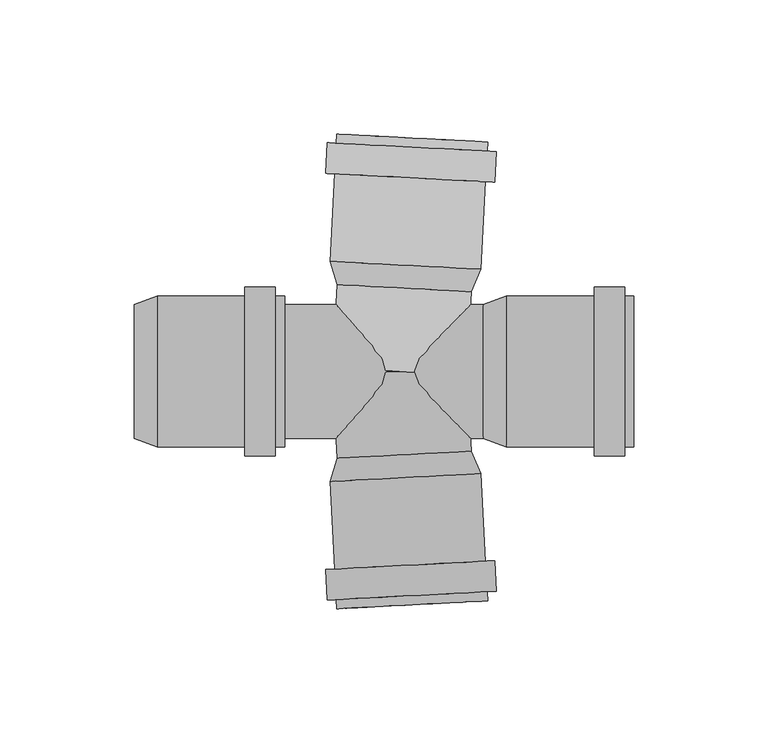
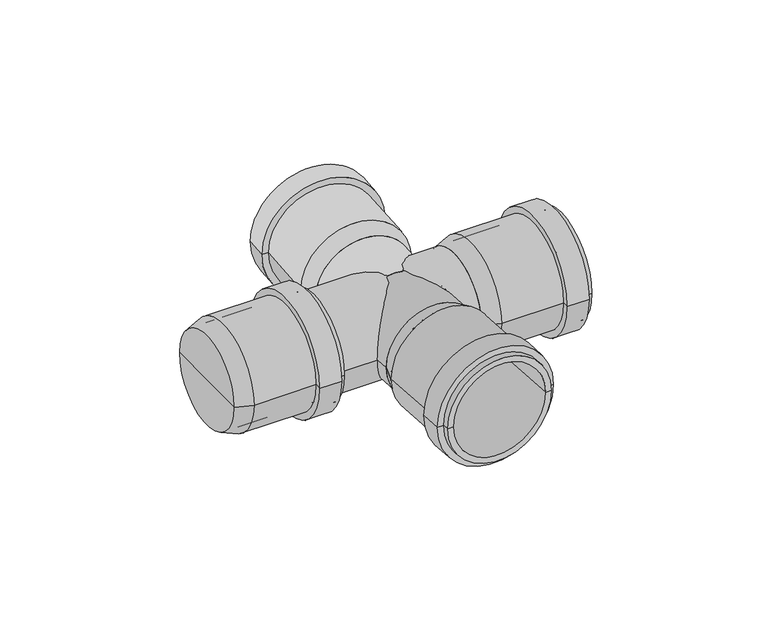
"""IFC4 building model written with IfcOpenShell, lengths in millimetres: pipe fitting geometry, pf_HTDA : pf_HTDA."""

import ifcopenshell
import ifcopenshell.guid

model = None  # the IFC model being written
_history = None  # IfcOwnerHistory: only IFC2X3 demands one
_inside = {}  # id of a spatial element -> (the spatial element, [elements in it])
_under = {}  # id of a project, library or spatial element -> (it, [spatial elements below it])
_declared = {}  # id of a project -> (the project, [libraries it declares])
_typed = {}  # id of a type object -> (the type object, [elements of that type])
_made_of = {}  # id of a material, layer set ... -> (it, [elements and type objects made of it])


def new_model(schema):
    """Start an empty IFC model of exactly this schema.

    Asked for "IFC4X3", IfcOpenShell would pick the latest addendum, in which some entities
    have other attributes; the version numbers below select the first issue.
    IFC2X3 requires an IfcOwnerHistory on every rooted entity: one is made here for all.
    """
    global model, _history
    if schema == "IFC4X3":
        model = ifcopenshell.file(schema_version=(4, 3, 0, 0))
    else:
        model = ifcopenshell.file(schema=schema)
    _inside.clear()
    _under.clear()
    _declared.clear()
    _typed.clear()
    _made_of.clear()
    _history = None
    if model.schema == "IFC2X3":
        org = make("IfcOrganization", Name="unknown")
        user = make(
            "IfcPersonAndOrganization",
            ThePerson=make("IfcPerson", FamilyName="unknown"),
            TheOrganization=org,
        )
        app = make(
            "IfcApplication",
            ApplicationDeveloper=org,
            Version="unknown",
            ApplicationFullName="unknown",
            ApplicationIdentifier="unknown",
        )
        _history = make(
            "IfcOwnerHistory",
            OwningUser=user,
            OwningApplication=app,
            ChangeAction="ADDED",
            CreationDate=0,
        )
    return model


def make(cls, **values):
    """One entity of the class cls with the attributes given. An attribute that is None is left unset."""
    return model.create_entity(
        cls, **{name: value for name, value in values.items() if value is not None}
    )


def rooted(cls, **values):
    """An entity with a GlobalId (a new one), such as an element, a storey or a relation."""
    return make(cls, GlobalId=ifcopenshell.guid.new(), OwnerHistory=_history, **values)


def si_unit(unit_type, name, prefix=None):
    """IfcSIUnit, for example si_unit("LENGTHUNIT", "METRE", prefix="MILLI")."""
    return make("IfcSIUnit", UnitType=unit_type, Prefix=prefix, Name=name)


def assignment(units):
    """IfcUnitAssignment: the units of a project."""
    return None if units is None else make("IfcUnitAssignment", Units=units)


def point(xyz):
    """IfcCartesianPoint."""
    return None if xyz is None else make("IfcCartesianPoint", Coordinates=xyz)


def direction(xyz):
    """IfcDirection."""
    return None if xyz is None else make("IfcDirection", DirectionRatios=xyz)


def frame(location, z_axis=None, x_axis=None):
    """IfcAxis2Placement3D, a coordinate frame: its origin and axes. An axis left out is left unset."""
    return make(
        "IfcAxis2Placement3D",
        Location=point(location),
        Axis=direction(z_axis),
        RefDirection=direction(x_axis),
    )


def frame_2d(location, x_axis=None):
    """IfcAxis2Placement2D, a coordinate frame in the plane: its origin and x axis."""
    return make(
        "IfcAxis2Placement2D", Location=point(location), RefDirection=direction(x_axis)
    )


def origin():
    """The frame at (0, 0, 0) with its axes left unset."""
    return frame((0.0, 0.0, 0.0))


def origin_2d():
    """The frame at (0, 0) in the plane with its x axis left unset."""
    return frame_2d((0.0, 0.0))


def place(relative_to, where):
    """IfcLocalPlacement: puts the frame where relative to a parent placement (None: the world)."""
    return make(
        "IfcLocalPlacement", PlacementRelTo=relative_to, RelativePlacement=where
    )


def context(
    kind, dimensions, precision=None, world=None, true_north=None, identifier=None
):
    """IfcGeometricRepresentationContext, for example the 3D "Model" context."""
    return make(
        "IfcGeometricRepresentationContext",
        ContextIdentifier=identifier,
        ContextType=kind,
        CoordinateSpaceDimension=dimensions,
        Precision=precision,
        WorldCoordinateSystem=world,
        TrueNorth=true_north,
    )


def project(units=None, contexts=None):
    """IfcProject with its units and contexts."""
    return rooted(
        "IfcProject",
        Name="project",
        RepresentationContexts=contexts,
        UnitsInContext=assignment(units),
    )


def spatial(cls, under=None, at=None, **own):
    """A site, building, storey or space (cls), placed at a placement, below another one or the project."""
    s = rooted(cls, ObjectPlacement=at, **own)
    if under is not None:
        _under.setdefault(under.id(), (under, []))[1].append(s)
    return s


def polyline(points):
    """IfcPolyline through the points."""
    return make("IfcPolyline", Points=[point(p) for p in points])


def circle_curve(where, radius):
    """IfcCircle in the frame where."""
    return make("IfcCircle", Position=where, Radius=radius)


def trimmed(basis, trim1, trim2, sense, master):
    """IfcTrimmedCurve: the piece of a basis curve between two trims."""
    return make(
        "IfcTrimmedCurve",
        BasisCurve=basis,
        Trim1=trim1,
        Trim2=trim2,
        SenseAgreement=sense,
        MasterRepresentation=master,
    )


def segment(curve, same_sense, transition):
    """IfcCompositeCurveSegment."""
    return make(
        "IfcCompositeCurveSegment",
        Transition=transition,
        SameSense=same_sense,
        ParentCurve=curve,
    )


def composite_curve(segments, self_intersect=None):
    """IfcCompositeCurve: segments joined end to end."""
    return make("IfcCompositeCurve", Segments=segments, SelfIntersect=self_intersect)


def outline(outer, holes=None, kind="AREA"):
    """IfcArbitraryClosedProfileDef: a profile drawn as a closed curve; with holes, ...WithVoids."""
    if holes is None:
        return make("IfcArbitraryClosedProfileDef", ProfileType=kind, OuterCurve=outer)
    return make(
        "IfcArbitraryProfileDefWithVoids",
        ProfileType=kind,
        OuterCurve=outer,
        InnerCurves=holes,
    )


def extrude(swept, where, along, depth):
    """IfcExtrudedAreaSolid: the profile swept, set in the frame where, extruded along a direction by depth."""
    return make(
        "IfcExtrudedAreaSolid",
        SweptArea=swept,
        Position=where,
        ExtrudedDirection=direction(along),
        Depth=depth,
    )


def shape(context_of_items, identifier, shape_type, items):
    """IfcShapeRepresentation: the items that make up one representation, for example the "Body"."""
    return make(
        "IfcShapeRepresentation",
        ContextOfItems=context_of_items,
        RepresentationIdentifier=identifier,
        RepresentationType=shape_type,
        Items=items,
    )


def source(mapping_origin, context_of_items, identifier, shape_type, items):
    """IfcRepresentationMap: a shape defined once, which mapped items show again and again."""
    return make(
        "IfcRepresentationMap",
        MappingOrigin=mapping_origin,
        MappedRepresentation=shape(context_of_items, identifier, shape_type, items),
    )


def transform(
    local_origin,
    x_axis=None,
    y_axis=None,
    z_axis=None,
    scale=None,
    scale2=None,
    scale3=None,
    uniform=True,
):
    """IfcCartesianTransformationOperator3D, or its non-uniform kind. x_axis, y_axis, z_axis: its Axis1, 2, 3."""
    if uniform:
        return make(
            "IfcCartesianTransformationOperator3D",
            Axis1=direction(x_axis),
            Axis2=direction(y_axis),
            LocalOrigin=point(local_origin),
            Scale=scale,
            Axis3=direction(z_axis),
        )
    return make(
        "IfcCartesianTransformationOperator3DnonUniform",
        Axis1=direction(x_axis),
        Axis2=direction(y_axis),
        LocalOrigin=point(local_origin),
        Scale=scale,
        Axis3=direction(z_axis),
        Scale2=scale2,
        Scale3=scale3,
    )


def mapped(mapping_source, mapping_target):
    """IfcMappedItem: shows the shape of a source again, moved by a transform."""
    return make(
        "IfcMappedItem", MappingSource=mapping_source, MappingTarget=mapping_target
    )


def made_of(thing, what):
    """Note that an element or type object is made of a material, layer set ...; save() writes the relation."""
    if what is not None:
        _made_of.setdefault(what.id(), (what, []))[1].append(thing)
    return thing


def element(
    cls,
    number,
    at=None,
    inside=None,
    cuts=None,
    type_object=None,
    material=None,
    context=None,
    identifier="Body",
    shape_type=None,
    held_by="IfcProductDefinitionShape",
    body=None,
    shapes=None,
    **own,
):
    """One element of the class cls, such as IfcWall. Its Tag is "e" and its number.

    at: its placement. inside: the storey or other place that contains it. cuts: it is an
    opening in that element (IfcRelVoidsElement). A single representation is given by context,
    identifier, shape_type and body (its items); several are given by shapes. held_by: the class
    of the entity that holds the representations. save() writes the other relations.
    """
    e = rooted(cls, Tag="e%d" % number, ObjectPlacement=at, **own)
    if body is not None:
        shapes = [shape(context, identifier, shape_type, body)]
    if shapes is not None:
        e.Representation = make(held_by, Representations=shapes)
    if inside is not None:
        _inside.setdefault(inside.id(), (inside, []))[1].append(e)
    if cuts is not None:
        rooted(
            "IfcRelVoidsElement", RelatingBuildingElement=cuts, RelatedOpeningElement=e
        )
    if type_object is not None:
        _typed.setdefault(type_object.id(), (type_object, []))[1].append(e)
    return made_of(e, material)


def aggregate(whole, parts):
    """IfcRelAggregates: a whole, such as a stair, and the parts it consists of."""
    return rooted("IfcRelAggregates", RelatingObject=whole, RelatedObjects=parts)


def save(model, path):
    """Write the relations noted so far, then the file.

    IfcRelAggregates (storeys below a building ...), IfcRelContainedInSpatialStructure (elements
    in a storey), IfcRelDefinesByType, IfcRelAssociatesMaterial and IfcRelDeclares: one each for
    every whole, place, type object, material and project.
    """
    for whole, parts in _under.values():
        aggregate(whole, parts)
    for where, things in _inside.values():
        rooted(
            "IfcRelContainedInSpatialStructure",
            RelatedElements=things,
            RelatingStructure=where,
        )
    for kind, things in _typed.values():
        rooted("IfcRelDefinesByType", RelatedObjects=things, RelatingType=kind)
    for what, things in _made_of.values():
        rooted("IfcRelAssociatesMaterial", RelatedObjects=things, RelatingMaterial=what)
    for by, libraries in _declared.values():
        rooted("IfcRelDeclares", RelatingContext=by, RelatedDefinitions=libraries)
    model.write(path)


def plane_surface(at):
    """IfcPlane: the flat surface through the origin of the frame at, square to its z axis."""
    return make("IfcPlane", Position=at)


def cylinder_surface(at, radius):
    """IfcCylindricalSurface: all points at the distance radius from the z axis of the frame at."""
    return make("IfcCylindricalSurface", Position=at, Radius=radius)


def revolved_surface(curve, axis_point, axis_direction):
    """IfcSurfaceOfRevolution: the curve turned about the line through axis_point along axis_direction."""
    return make(
        "IfcSurfaceOfRevolution",
        SweptCurve=make("IfcArbitraryOpenProfileDef", ProfileType="CURVE", Curve=curve),
        AxisPosition=make("IfcAxis1Placement", Location=point(axis_point), Axis=direction(axis_direction)),
    )


def advanced_brep(points, edges, surfaces, faces):
    """IfcAdvancedBrep: a solid bounded by faces that lie on surfaces and meet in shared edges.

    An edge is (start, end): straight between two places in points (the first is 0);
    or (start, end, curve); or (start, end, curve, False) where it runs against its curve.
    A face is (place in surfaces, loops), or (place, loops, False) where it looks against
    its surface's normal. A loop lists edges by number (the first is 1), with a minus sign
    where the edge is run from its end to its start. The first loop is the outer one.
    """
    corners = [point(p) for p in points]
    vertices = [make("IfcVertexPoint", VertexGeometry=c) for c in corners]
    made = []
    for start, end, *more in edges:
        made.append(
            make(
                "IfcEdgeCurve",
                EdgeStart=vertices[start],
                EdgeEnd=vertices[end],
                EdgeGeometry=more[0] if more else make("IfcPolyline", Points=[corners[start], corners[end]]),
                SameSense=more[1] if len(more) > 1 else True,
            )
        )
    hull = []
    for where, loops, *sense in faces:
        bounds = []
        for j, loop in enumerate(loops):
            ring = [make("IfcOrientedEdge", EdgeElement=made[abs(k) - 1], Orientation=k > 0) for k in loop]
            bounds.append(
                make(
                    "IfcFaceOuterBound" if j == 0 else "IfcFaceBound",
                    Bound=make("IfcEdgeLoop", EdgeList=ring),
                    Orientation=True,
                )
            )
        hull.append(make("IfcAdvancedFace", Bounds=bounds, FaceSurface=surfaces[where], SameSense=sense[0] if sense else True))
    return make("IfcAdvancedBrep", Outer=make("IfcClosedShell", CfsFaces=hull))


def pipe_fitting_f7b55dbd(model_context):
    return source(origin(), model_context, "Body", "SolidModel", [
        advanced_brep(
        [(26.5933866, 29.7489796, 0.0), (-23.3380901, 32.3657774, 0.0), (-25.9889861, 41.0163699, 0.0), (30.1339938, 38.0750892, 0.0), (1.6276482, 31.0573785, 0.0), (32.6199517, 85.5099921, 0.0), (-23.5030281, 88.4512728, 0.0), (-20.4072766, 88.2890314, 0.0), (29.5242002, 85.6722336, 0.0), (32.4420095, 82.1146517, 0.0), (-23.6809704, 85.0559324, 0.0), (35.8373499, 81.9367094, 0.0), (-27.0763108, 85.2338747, 0.0), (35.24072, 70.5523327, 0.0), (-27.6729407, 73.849498, 0.0), (31.8453796, 70.730275, 0.0), (-24.2776003, 73.6715557, 0.0), (27.0382422, 38.2373307, 0.0), (-22.8932345, 40.8541285, 0.0), (2.0725039, 39.5457296, 0.0)],
        [
            (0, 1, circle_curve(frame((1.6276482, 31.0573785, 0.0), z_axis=(0.05233595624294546, 0.9986295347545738, 0.0), x_axis=(-0.9986295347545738, 0.05233595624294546, 0.0)), 25.0)),
            (1, 2),
            (2, 3, circle_curve(frame((2.0725039, 39.5457296, 0.0), z_axis=(-0.05233595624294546, -0.9986295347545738, 0.0), x_axis=(-0.9986295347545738, 0.05233595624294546, 0.0)), 28.1)),
            (3, 0),
            (1, 0, circle_curve(frame((1.6276482, 31.0573785, 0.0), z_axis=(0.05233595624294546, 0.9986295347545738, 0.0), x_axis=(-0.9986295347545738, 0.05233595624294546, 0.0)), 25.0)),
            (3, 2, circle_curve(frame((2.0725039, 39.5457296, 0.0), z_axis=(-0.05233595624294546, -0.9986295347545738, 0.0), x_axis=(-0.9986295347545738, 0.05233595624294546, 0.0)), 28.1)),
            (4, 1),
            (0, 4),
            (5, 6, circle_curve(frame((4.5584618, 86.9806325, 0.0), z_axis=(0.05233595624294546, 0.9986295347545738, 0.0), x_axis=(-0.9986295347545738, 0.05233595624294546, 0.0)), 28.1)),
            (6, 7),
            (7, 8, circle_curve(frame((4.5584618, 86.9806325, 0.0), z_axis=(-0.05233595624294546, -0.9986295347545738, 0.0), x_axis=(-0.9986295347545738, 0.05233595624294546, 0.0)), 25.0)),
            (8, 5),
            (6, 5, circle_curve(frame((4.5584618, 86.9806325, 0.0), z_axis=(0.05233595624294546, 0.9986295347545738, 0.0), x_axis=(-0.9986295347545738, 0.05233595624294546, 0.0)), 28.1)),
            (8, 7, circle_curve(frame((4.5584618, 86.9806325, 0.0), z_axis=(-0.05233595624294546, -0.9986295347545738, 0.0), x_axis=(-0.9986295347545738, 0.05233595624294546, 0.0)), 25.0)),
            (9, 10, circle_curve(frame((4.3805195, 83.5852921, 0.0), z_axis=(0.05233595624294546, 0.9986295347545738, 0.0), x_axis=(-0.9986295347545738, 0.05233595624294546, 0.0)), 28.1)),
            (10, 6),
            (5, 9),
            (10, 9, circle_curve(frame((4.3805195, 83.5852921, 0.0), z_axis=(0.05233595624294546, 0.9986295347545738, 0.0), x_axis=(-0.9986295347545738, 0.05233595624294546, 0.0)), 28.1)),
            (11, 12, circle_curve(frame((4.3805195, 83.5852921, 0.0), z_axis=(0.05233595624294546, 0.9986295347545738, 0.0), x_axis=(-0.9986295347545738, 0.05233595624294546, 0.0)), 31.5)),
            (12, 10),
            (9, 11),
            (12, 11, circle_curve(frame((4.3805195, 83.5852921, 0.0), z_axis=(0.05233595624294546, 0.9986295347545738, 0.0), x_axis=(-0.9986295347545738, 0.05233595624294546, 0.0)), 31.5)),
            (13, 14, circle_curve(frame((3.7838896, 72.2009154, 0.0), z_axis=(0.05233595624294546, 0.9986295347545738, 0.0), x_axis=(-0.9986295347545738, 0.05233595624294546, 0.0)), 31.5)),
            (14, 12),
            (11, 13),
            (14, 13, circle_curve(frame((3.7838896, 72.2009154, 0.0), z_axis=(0.05233595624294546, 0.9986295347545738, 0.0), x_axis=(-0.9986295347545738, 0.05233595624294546, 0.0)), 31.5)),
            (15, 16, circle_curve(frame((3.7838896, 72.2009154, 0.0), z_axis=(0.05233595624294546, 0.9986295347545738, 0.0), x_axis=(-0.9986295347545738, 0.05233595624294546, 0.0)), 28.1)),
            (16, 14),
            (13, 15),
            (16, 15, circle_curve(frame((3.7838896, 72.2009154, 0.0), z_axis=(0.05233595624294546, 0.9986295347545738, 0.0), x_axis=(-0.9986295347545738, 0.05233595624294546, 0.0)), 28.1)),
            (2, 16),
            (15, 3),
            (17, 18, circle_curve(frame((2.0725039, 39.5457296, 0.0), z_axis=(0.05233595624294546, 0.9986295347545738, 0.0), x_axis=(-0.9986295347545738, 0.05233595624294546, 0.0)), 25.0)),
            (18, 19),
            (19, 17),
            (18, 17, circle_curve(frame((2.0725039, 39.5457296, 0.0), z_axis=(0.05233595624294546, 0.9986295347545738, 0.0), x_axis=(-0.9986295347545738, 0.05233595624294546, 0.0)), 25.0)),
            (7, 18),
            (17, 8),
        ],
        [
            revolved_surface(polyline([(-25.9889861, 41.0163699, 0.0), (-23.3380901, 32.3657774, 0.0)]), (1.6276482, 31.0573785, 0.0), (-0.05233595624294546, -0.9986295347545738, 0.0)),
            plane_surface(frame((1.6276482, 31.0573785, 0.0), z_axis=(-0.05233595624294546, -0.9986295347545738, 0.0), x_axis=(-0.9986295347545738, 0.05233595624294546, 0.0))),
            plane_surface(frame((4.5584618, 86.9806325, 0.0), z_axis=(0.05233595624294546, 0.9986295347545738, 0.0), x_axis=(-0.9986295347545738, 0.05233595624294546, 0.0))),
            cylinder_surface(frame((1.6276482, 31.0573785, 0.0), z_axis=(-0.05233595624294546, -0.9986295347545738, 0.0), x_axis=(-0.9986295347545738, 0.05233595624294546, 0.0)), 28.1),
            plane_surface(frame((4.3805195, 83.5852921, 0.0), z_axis=(0.05233595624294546, 0.9986295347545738, 0.0), x_axis=(-0.9986295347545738, 0.05233595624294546, 0.0))),
            cylinder_surface(frame((1.6276482, 31.0573785, 0.0), z_axis=(-0.05233595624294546, -0.9986295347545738, 0.0), x_axis=(-0.9986295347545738, 0.05233595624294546, 0.0)), 31.5),
            plane_surface(frame((3.7838896, 72.2009154, 0.0), z_axis=(-0.05233595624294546, -0.9986295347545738, 0.0), x_axis=(-0.9986295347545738, 0.05233595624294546, 0.0))),
            plane_surface(frame((2.0725039, 39.5457296, 0.0), z_axis=(0.05233595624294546, 0.9986295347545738, 0.0), x_axis=(-0.9986295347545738, 0.05233595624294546, 0.0))),
            revolved_surface(polyline([(-22.893234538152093, 40.85412850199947, 0.0), (-20.40727661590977, 88.28903141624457, 0.0)]), (1.6276482, 31.0573785, 0.0), (-0.05233595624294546, -0.9986295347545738, 0.0)),
        ],
        [
            (0, [[1, 2, 3, 4]]),
            (0, [[5, -4, 6, -2]]),
            (1, [[7, -1, 8]]),
            (1, [[-8, -5, -7]]),
            (2, [[9, 10, 11, 12]]),
            (2, [[13, -12, 14, -10]]),
            (3, [[15, 16, -9, 17]]),
            (3, [[18, -17, -13, -16]]),
            (4, [[19, 20, -15, 21]]),
            (4, [[22, -21, -18, -20]]),
            (5, [[23, 24, -19, 25]]),
            (5, [[26, -25, -22, -24]]),
            (6, [[27, 28, -23, 29]]),
            (6, [[30, -29, -26, -28]]),
            (3, [[-3, 31, -27, 32]]),
            (3, [[-6, -32, -30, -31]]),
            (7, [[33, 34, 35]]),
            (7, [[36, -35, -34]]),
            (8, [[-11, 37, -33, 38]]),
            (8, [[-14, -38, -36, -37]]),
        ],
    ),
        advanced_brep(
        [(-23.3380901, -32.3657774, 0.0), (26.5933866, -29.7489796, 0.0), (30.1339938, -38.0750892, 0.0), (-25.9889861, -41.0163699, 0.0), (1.6276482, -31.0573785, 0.0), (-23.5030281, -88.4512728, 0.0), (32.6199517, -85.5099921, 0.0), (29.5242002, -85.6722336, 0.0), (-20.4072766, -88.2890314, 0.0), (-23.6809704, -85.0559324, 0.0), (32.4420095, -82.1146517, 0.0), (-27.0763108, -85.2338747, 0.0), (35.8373499, -81.9367094, 0.0), (-27.6729407, -73.849498, 0.0), (35.24072, -70.5523327, 0.0), (-24.2776003, -73.6715557, 0.0), (31.8453796, -70.730275, 0.0), (-22.8932345, -40.8541285, 0.0), (27.0382422, -38.2373307, 0.0), (2.0725039, -39.5457296, 0.0)],
        [
            (0, 1, circle_curve(frame((1.6276482, -31.0573785, 0.0), z_axis=(0.05233595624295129, -0.9986295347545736, 0.0), x_axis=(0.9986295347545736, 0.05233595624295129, 0.0)), 25.0)),
            (1, 2),
            (2, 3, circle_curve(frame((2.0725039, -39.5457296, 0.0), z_axis=(-0.05233595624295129, 0.9986295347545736, 0.0), x_axis=(0.9986295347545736, 0.05233595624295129, 0.0)), 28.1)),
            (3, 0),
            (1, 0, circle_curve(frame((1.6276482, -31.0573785, 0.0), z_axis=(0.05233595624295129, -0.9986295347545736, 0.0), x_axis=(0.9986295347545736, 0.05233595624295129, 0.0)), 25.0)),
            (3, 2, circle_curve(frame((2.0725039, -39.5457296, 0.0), z_axis=(-0.05233595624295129, 0.9986295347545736, 0.0), x_axis=(0.9986295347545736, 0.05233595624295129, 0.0)), 28.1)),
            (4, 1),
            (0, 4),
            (5, 6, circle_curve(frame((4.5584618, -86.9806325, 0.0), z_axis=(0.05233595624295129, -0.9986295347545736, 0.0), x_axis=(0.9986295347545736, 0.05233595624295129, 0.0)), 28.1)),
            (6, 7),
            (7, 8, circle_curve(frame((4.5584618, -86.9806325, 0.0), z_axis=(-0.05233595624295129, 0.9986295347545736, 0.0), x_axis=(0.9986295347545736, 0.05233595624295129, 0.0)), 25.0)),
            (8, 5),
            (6, 5, circle_curve(frame((4.5584618, -86.9806325, 0.0), z_axis=(0.05233595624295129, -0.9986295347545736, 0.0), x_axis=(0.9986295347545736, 0.05233595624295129, 0.0)), 28.1)),
            (8, 7, circle_curve(frame((4.5584618, -86.9806325, 0.0), z_axis=(-0.05233595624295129, 0.9986295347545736, 0.0), x_axis=(0.9986295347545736, 0.05233595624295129, 0.0)), 25.0)),
            (9, 10, circle_curve(frame((4.3805195, -83.5852921, 0.0), z_axis=(0.05233595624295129, -0.9986295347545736, 0.0), x_axis=(0.9986295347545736, 0.05233595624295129, 0.0)), 28.1)),
            (10, 6),
            (5, 9),
            (10, 9, circle_curve(frame((4.3805195, -83.5852921, 0.0), z_axis=(0.05233595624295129, -0.9986295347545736, 0.0), x_axis=(0.9986295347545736, 0.05233595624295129, 0.0)), 28.1)),
            (11, 12, circle_curve(frame((4.3805195, -83.5852921, 0.0), z_axis=(0.05233595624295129, -0.9986295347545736, 0.0), x_axis=(0.9986295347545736, 0.05233595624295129, 0.0)), 31.5)),
            (12, 10),
            (9, 11),
            (12, 11, circle_curve(frame((4.3805195, -83.5852921, 0.0), z_axis=(0.05233595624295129, -0.9986295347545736, 0.0), x_axis=(0.9986295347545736, 0.05233595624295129, 0.0)), 31.5)),
            (13, 14, circle_curve(frame((3.7838896, -72.2009154, 0.0), z_axis=(0.05233595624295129, -0.9986295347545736, 0.0), x_axis=(0.9986295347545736, 0.05233595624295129, 0.0)), 31.5)),
            (14, 12),
            (11, 13),
            (14, 13, circle_curve(frame((3.7838896, -72.2009154, 0.0), z_axis=(0.05233595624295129, -0.9986295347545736, 0.0), x_axis=(0.9986295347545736, 0.05233595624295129, 0.0)), 31.5)),
            (15, 16, circle_curve(frame((3.7838896, -72.2009154, 0.0), z_axis=(0.05233595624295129, -0.9986295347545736, 0.0), x_axis=(0.9986295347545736, 0.05233595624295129, 0.0)), 28.1)),
            (16, 14),
            (13, 15),
            (16, 15, circle_curve(frame((3.7838896, -72.2009154, 0.0), z_axis=(0.05233595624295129, -0.9986295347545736, 0.0), x_axis=(0.9986295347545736, 0.05233595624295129, 0.0)), 28.1)),
            (2, 16),
            (15, 3),
            (17, 18, circle_curve(frame((2.0725039, -39.5457296, 0.0), z_axis=(0.05233595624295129, -0.9986295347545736, 0.0), x_axis=(0.9986295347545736, 0.05233595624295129, 0.0)), 25.0)),
            (18, 19),
            (19, 17),
            (18, 17, circle_curve(frame((2.0725039, -39.5457296, 0.0), z_axis=(0.05233595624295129, -0.9986295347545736, 0.0), x_axis=(0.9986295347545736, 0.05233595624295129, 0.0)), 25.0)),
            (7, 18),
            (17, 8),
        ],
        [
            revolved_surface(polyline([(30.1339938, -38.0750892, 0.0), (26.5933866, -29.7489796, 0.0)]), (1.6276482, -31.0573785, 0.0), (-0.05233595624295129, 0.9986295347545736, 0.0)),
            plane_surface(frame((1.6276482, -31.0573785, 0.0), z_axis=(-0.05233595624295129, 0.9986295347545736, 0.0), x_axis=(0.9986295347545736, 0.05233595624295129, 0.0))),
            plane_surface(frame((4.5584618, -86.9806325, 0.0), z_axis=(0.05233595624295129, -0.9986295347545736, 0.0), x_axis=(0.9986295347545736, 0.05233595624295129, 0.0))),
            cylinder_surface(frame((1.6276482, -31.0573785, 0.0), z_axis=(-0.05233595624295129, 0.9986295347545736, 0.0), x_axis=(0.9986295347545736, 0.05233595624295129, 0.0)), 28.1),
            plane_surface(frame((4.3805195, -83.5852921, 0.0), z_axis=(0.05233595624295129, -0.9986295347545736, 0.0), x_axis=(0.9986295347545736, 0.05233595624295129, 0.0))),
            cylinder_surface(frame((1.6276482, -31.0573785, 0.0), z_axis=(-0.05233595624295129, 0.9986295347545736, 0.0), x_axis=(0.9986295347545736, 0.05233595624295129, 0.0)), 31.5),
            plane_surface(frame((3.7838896, -72.2009154, 0.0), z_axis=(-0.05233595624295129, 0.9986295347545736, 0.0), x_axis=(0.9986295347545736, 0.05233595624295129, 0.0))),
            plane_surface(frame((2.0725039, -39.5457296, 0.0), z_axis=(0.05233595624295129, -0.9986295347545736, 0.0), x_axis=(0.9986295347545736, 0.05233595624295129, 0.0))),
            revolved_surface(polyline([(27.038242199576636, -38.2373306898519, 0.0), (29.524200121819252, -85.6722336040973, 0.0)]), (1.6276482, -31.0573785, 0.0), (-0.05233595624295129, 0.9986295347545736, 0.0)),
        ],
        [
            (0, [[1, 2, 3, 4]]),
            (0, [[5, -4, 6, -2]]),
            (1, [[7, -1, 8]]),
            (1, [[-8, -5, -7]]),
            (2, [[9, 10, 11, 12]]),
            (2, [[13, -12, 14, -10]]),
            (3, [[15, 16, -9, 17]]),
            (3, [[18, -17, -13, -16]]),
            (4, [[19, 20, -15, 21]]),
            (4, [[22, -21, -18, -20]]),
            (5, [[23, 24, -19, 25]]),
            (5, [[26, -25, -22, -24]]),
            (6, [[27, 28, -23, 29]]),
            (6, [[30, -29, -26, -28]]),
            (3, [[-3, 31, -27, 32]]),
            (3, [[-6, -32, -30, -31]]),
            (7, [[33, 34, 35]]),
            (7, [[36, -35, -34]]),
            (8, [[-11, 37, -33, 38]]),
            (8, [[-14, -38, -36, -37]]),
        ],
    ),
        advanced_brep(
        [(31.1, -25.0, 0.0), (31.1, 25.0, 0.0), (39.6, 28.1, 0.0), (39.6, -28.1, 0.0), (31.1, 0.0, 0.0), (87.1, -28.1, 0.0), (87.1, 28.1, 0.0), (87.1, 25.0, 0.0), (87.1, -25.0, 0.0), (83.7, -28.1, 0.0), (83.7, 28.1, 0.0), (83.7, -31.5, 0.0), (83.7, 31.5, 0.0), (72.3, -31.5, 0.0), (72.3, 31.5, 0.0), (72.3, -28.1, 0.0), (72.3, 28.1, 0.0), (39.6, -25.0, 0.0), (39.6, 25.0, 0.0), (39.6, 0.0, 0.0)],
        [
            (0, 1, circle_curve(frame((31.1, 0.0, 0.0), z_axis=(1.0, 0.0, 0.0), x_axis=(0.0, 1.0, 0.0)), 25.0)),
            (1, 2),
            (2, 3, circle_curve(frame((39.6, 0.0, 0.0), z_axis=(-1.0, 0.0, 0.0), x_axis=(0.0, 1.0, 0.0)), 28.1)),
            (3, 0),
            (1, 0, circle_curve(frame((31.1, 0.0, 0.0), z_axis=(1.0, 0.0, 0.0), x_axis=(0.0, 1.0, 0.0)), 25.0)),
            (3, 2, circle_curve(frame((39.6, 0.0, 0.0), z_axis=(-1.0, 0.0, 0.0), x_axis=(0.0, 1.0, 0.0)), 28.1)),
            (4, 1),
            (0, 4),
            (5, 6, circle_curve(frame((87.1, 0.0, 0.0), z_axis=(1.0, 0.0, 0.0), x_axis=(0.0, 1.0, 0.0)), 28.1)),
            (6, 7),
            (7, 8, circle_curve(frame((87.1, 0.0, 0.0), z_axis=(-1.0, 0.0, 0.0), x_axis=(0.0, 1.0, 0.0)), 25.0)),
            (8, 5),
            (6, 5, circle_curve(frame((87.1, 0.0, 0.0), z_axis=(1.0, 0.0, 0.0), x_axis=(0.0, 1.0, 0.0)), 28.1)),
            (8, 7, circle_curve(frame((87.1, 0.0, 0.0), z_axis=(-1.0, 0.0, 0.0), x_axis=(0.0, 1.0, 0.0)), 25.0)),
            (9, 10, circle_curve(frame((83.7, 0.0, 0.0), z_axis=(1.0, 0.0, 0.0), x_axis=(0.0, 1.0, 0.0)), 28.1)),
            (10, 6),
            (5, 9),
            (10, 9, circle_curve(frame((83.7, 0.0, 0.0), z_axis=(1.0, 0.0, 0.0), x_axis=(0.0, 1.0, 0.0)), 28.1)),
            (11, 12, circle_curve(frame((83.7, 0.0, 0.0), z_axis=(1.0, 0.0, 0.0), x_axis=(0.0, 1.0, 0.0)), 31.5)),
            (12, 10),
            (9, 11),
            (12, 11, circle_curve(frame((83.7, 0.0, 0.0), z_axis=(1.0, 0.0, 0.0), x_axis=(0.0, 1.0, 0.0)), 31.5)),
            (13, 14, circle_curve(frame((72.3, 0.0, 0.0), z_axis=(1.0, 0.0, 0.0), x_axis=(0.0, 1.0, 0.0)), 31.5)),
            (14, 12),
            (11, 13),
            (14, 13, circle_curve(frame((72.3, 0.0, 0.0), z_axis=(1.0, 0.0, 0.0), x_axis=(0.0, 1.0, 0.0)), 31.5)),
            (15, 16, circle_curve(frame((72.3, 0.0, 0.0), z_axis=(1.0, 0.0, 0.0), x_axis=(0.0, 1.0, 0.0)), 28.1)),
            (16, 14),
            (13, 15),
            (16, 15, circle_curve(frame((72.3, 0.0, 0.0), z_axis=(1.0, 0.0, 0.0), x_axis=(0.0, 1.0, 0.0)), 28.1)),
            (2, 16),
            (15, 3),
            (17, 18, circle_curve(frame((39.6, 0.0, 0.0), z_axis=(1.0, 0.0, 0.0), x_axis=(0.0, 1.0, 0.0)), 25.0)),
            (18, 19),
            (19, 17),
            (18, 17, circle_curve(frame((39.6, 0.0, 0.0), z_axis=(1.0, 0.0, 0.0), x_axis=(0.0, 1.0, 0.0)), 25.0)),
            (7, 18),
            (17, 8),
        ],
        [
            revolved_surface(polyline([(39.6, 28.1, 0.0), (31.1, 25.0, 0.0)]), (31.1, 0.0, 0.0), (-1.0, 0.0, 0.0)),
            plane_surface(frame((31.1, 0.0, 0.0), z_axis=(-1.0, 0.0, 0.0), x_axis=(0.0, 1.0, 0.0))),
            plane_surface(frame((87.1, 0.0, 0.0), z_axis=(1.0, 0.0, 0.0), x_axis=(0.0, 1.0, 0.0))),
            cylinder_surface(frame((31.1, 0.0, 0.0), z_axis=(-1.0, 0.0, 0.0), x_axis=(0.0, 1.0, 0.0)), 28.1),
            plane_surface(frame((83.7, 0.0, 0.0), z_axis=(1.0, 0.0, 0.0), x_axis=(0.0, 1.0, 0.0))),
            cylinder_surface(frame((31.1, 0.0, 0.0), z_axis=(-1.0, 0.0, 0.0), x_axis=(0.0, 1.0, 0.0)), 31.5),
            plane_surface(frame((72.3, 0.0, 0.0), z_axis=(-1.0, 0.0, 0.0), x_axis=(0.0, 1.0, 0.0))),
            plane_surface(frame((39.6, 0.0, 0.0), z_axis=(1.0, 0.0, 0.0), x_axis=(0.0, 1.0, 0.0))),
            revolved_surface(polyline([(39.6, 25.0, 0.0), (87.1, 25.0, 0.0)]), (31.1, 0.0, 0.0), (-1.0, 0.0, 0.0)),
        ],
        [
            (0, [[1, 2, 3, 4]]),
            (0, [[5, -4, 6, -2]]),
            (1, [[7, -1, 8]]),
            (1, [[-8, -5, -7]]),
            (2, [[9, 10, 11, 12]]),
            (2, [[13, -12, 14, -10]]),
            (3, [[15, 16, -9, 17]]),
            (3, [[18, -17, -13, -16]]),
            (4, [[19, 20, -15, 21]]),
            (4, [[22, -21, -18, -20]]),
            (5, [[23, 24, -19, 25]]),
            (5, [[26, -25, -22, -24]]),
            (6, [[27, 28, -23, 29]]),
            (6, [[30, -29, -26, -28]]),
            (3, [[-3, 31, -27, 32]]),
            (3, [[-6, -32, -30, -31]]),
            (7, [[33, 34, 35]]),
            (7, [[36, -35, -34]]),
            (8, [[-11, 37, -33, 38]]),
            (8, [[-14, -38, -36, -37]]),
        ],
    ),
        advanced_brep(
        [(-99.0, -25.0, 0.0), (-99.0, 25.0, 0.0), (-90.5, 28.1, 0.0), (-90.5, -28.1, 0.0), (-99.0, 0.0, 0.0), (-43.0, -28.1, 0.0), (-43.0, 28.1, 0.0), (-43.0, 25.0, 0.0), (-43.0, -25.0, 0.0), (-46.4, -28.1, 0.0), (-46.4, 28.1, 0.0), (-46.4, -31.5, 0.0), (-46.4, 31.5, 0.0), (-57.8, -31.5, 0.0), (-57.8, 31.5, 0.0), (-57.8, -28.1, 0.0), (-57.8, 28.1, 0.0), (-90.5, -25.0, 0.0), (-90.5, 25.0, 0.0), (-90.5, 0.0, 0.0)],
        [
            (0, 1, circle_curve(frame((-99.0, 0.0, 0.0), z_axis=(1.0, 0.0, 0.0), x_axis=(0.0, 1.0, 0.0)), 25.0)),
            (1, 2),
            (2, 3, circle_curve(frame((-90.5, 0.0, 0.0), z_axis=(-1.0, 0.0, 0.0), x_axis=(0.0, 1.0, 0.0)), 28.1)),
            (3, 0),
            (1, 0, circle_curve(frame((-99.0, 0.0, 0.0), z_axis=(1.0, 0.0, 0.0), x_axis=(0.0, 1.0, 0.0)), 25.0)),
            (3, 2, circle_curve(frame((-90.5, 0.0, 0.0), z_axis=(-1.0, 0.0, 0.0), x_axis=(0.0, 1.0, 0.0)), 28.1)),
            (4, 1),
            (0, 4),
            (5, 6, circle_curve(frame((-43.0, 0.0, 0.0), z_axis=(1.0, 0.0, 0.0), x_axis=(0.0, 1.0, 0.0)), 28.1)),
            (6, 7),
            (7, 8, circle_curve(frame((-43.0, 0.0, 0.0), z_axis=(-1.0, 0.0, 0.0), x_axis=(0.0, 1.0, 0.0)), 25.0)),
            (8, 5),
            (6, 5, circle_curve(frame((-43.0, 0.0, 0.0), z_axis=(1.0, 0.0, 0.0), x_axis=(0.0, 1.0, 0.0)), 28.1)),
            (8, 7, circle_curve(frame((-43.0, 0.0, 0.0), z_axis=(-1.0, 0.0, 0.0), x_axis=(0.0, 1.0, 0.0)), 25.0)),
            (9, 10, circle_curve(frame((-46.4, 0.0, 0.0), z_axis=(1.0, 0.0, 0.0), x_axis=(0.0, 1.0, 0.0)), 28.1)),
            (10, 6),
            (5, 9),
            (10, 9, circle_curve(frame((-46.4, 0.0, 0.0), z_axis=(1.0, 0.0, 0.0), x_axis=(0.0, 1.0, 0.0)), 28.1)),
            (11, 12, circle_curve(frame((-46.4, 0.0, 0.0), z_axis=(1.0, 0.0, 0.0), x_axis=(0.0, 1.0, 0.0)), 31.5)),
            (12, 10),
            (9, 11),
            (12, 11, circle_curve(frame((-46.4, 0.0, 0.0), z_axis=(1.0, 0.0, 0.0), x_axis=(0.0, 1.0, 0.0)), 31.5)),
            (13, 14, circle_curve(frame((-57.8, 0.0, 0.0), z_axis=(1.0, 0.0, 0.0), x_axis=(0.0, 1.0, 0.0)), 31.5)),
            (14, 12),
            (11, 13),
            (14, 13, circle_curve(frame((-57.8, 0.0, 0.0), z_axis=(1.0, 0.0, 0.0), x_axis=(0.0, 1.0, 0.0)), 31.5)),
            (15, 16, circle_curve(frame((-57.8, 0.0, 0.0), z_axis=(1.0, 0.0, 0.0), x_axis=(0.0, 1.0, 0.0)), 28.1)),
            (16, 14),
            (13, 15),
            (16, 15, circle_curve(frame((-57.8, 0.0, 0.0), z_axis=(1.0, 0.0, 0.0), x_axis=(0.0, 1.0, 0.0)), 28.1)),
            (2, 16),
            (15, 3),
            (17, 18, circle_curve(frame((-90.5, 0.0, 0.0), z_axis=(1.0, 0.0, 0.0), x_axis=(0.0, 1.0, 0.0)), 25.0)),
            (18, 19),
            (19, 17),
            (18, 17, circle_curve(frame((-90.5, 0.0, 0.0), z_axis=(1.0, 0.0, 0.0), x_axis=(0.0, 1.0, 0.0)), 25.0)),
            (7, 18),
            (17, 8),
        ],
        [
            revolved_surface(polyline([(-90.5, 28.1, 0.0), (-99.0, 25.0, 0.0)]), (-99.0, 0.0, 0.0), (-1.0, 0.0, 0.0)),
            plane_surface(frame((-99.0, 0.0, 0.0), z_axis=(-1.0, 0.0, 0.0), x_axis=(0.0, 1.0, 0.0))),
            plane_surface(frame((-43.0, 0.0, 0.0), z_axis=(1.0, 0.0, 0.0), x_axis=(0.0, 1.0, 0.0))),
            cylinder_surface(frame((-99.0, 0.0, 0.0), z_axis=(-1.0, 0.0, 0.0), x_axis=(0.0, 1.0, 0.0)), 28.1),
            plane_surface(frame((-46.4, 0.0, 0.0), z_axis=(1.0, 0.0, 0.0), x_axis=(0.0, 1.0, 0.0))),
            cylinder_surface(frame((-99.0, 0.0, 0.0), z_axis=(-1.0, 0.0, 0.0), x_axis=(0.0, 1.0, 0.0)), 31.5),
            plane_surface(frame((-57.8, 0.0, 0.0), z_axis=(-1.0, 0.0, 0.0), x_axis=(0.0, 1.0, 0.0))),
            plane_surface(frame((-90.5, 0.0, 0.0), z_axis=(1.0, 0.0, 0.0), x_axis=(0.0, 1.0, 0.0))),
            revolved_surface(polyline([(-90.5, 25.0, 0.0), (-43.0, 25.0, 0.0)]), (-99.0, 0.0, 0.0), (-1.0, 0.0, 0.0)),
        ],
        [
            (0, [[1, 2, 3, 4]]),
            (0, [[5, -4, 6, -2]]),
            (1, [[7, -1, 8]]),
            (1, [[-8, -5, -7]]),
            (2, [[9, 10, 11, 12]]),
            (2, [[13, -12, 14, -10]]),
            (3, [[15, 16, -9, 17]]),
            (3, [[18, -17, -13, -16]]),
            (4, [[19, 20, -15, 21]]),
            (4, [[22, -21, -18, -20]]),
            (5, [[23, 24, -19, 25]]),
            (5, [[26, -25, -22, -24]]),
            (6, [[27, 28, -23, 29]]),
            (6, [[30, -29, -26, -28]]),
            (3, [[-3, 31, -27, 32]]),
            (3, [[-6, -32, -30, -31]]),
            (7, [[33, 34, 35]]),
            (7, [[36, -35, -34]]),
            (8, [[-11, 37, -33, 38]]),
            (8, [[-14, -38, -36, -37]]),
        ],
    ),
        extrude(outline(composite_curve([segment(trimmed(circle_curve(origin_2d(), 25.0), [point((0.0, 25.0))], [point((0.0, -25.0))], False, "CARTESIAN"), True, "CONTINUOUS"), segment(trimmed(circle_curve(origin_2d(), 25.0), [point((0.0, -25.0))], [point((0.0, 25.0))], False, "CARTESIAN"), True, "CONTINUOUS")], self_intersect=False)), frame((0.0, 0.0, 0.0), z_axis=(0.05233595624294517, 0.9986295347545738, 0.0), x_axis=(0.0, 0.0, 1.0)), (0.0, 0.0, 1.0), 31.1),
        extrude(outline(composite_curve([segment(trimmed(circle_curve(origin_2d(), 25.0), [point((0.0, -24.9999999))], [point((0.0, 25.0))], False, "CARTESIAN"), True, "CONTINUOUS"), segment(trimmed(circle_curve(origin_2d(), 25.0), [point((0.0, 25.0))], [point((0.0, -24.9999999))], False, "CARTESIAN"), True, "CONTINUOUS")], self_intersect=False)), frame((1.6276482, -31.0573785, 0.0), z_axis=(-0.0523359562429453, 0.9986295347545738, 0.0), x_axis=(0.0, 0.0, 1.0)), (0.0, 0.0, 1.0), 31.1),
        extrude(outline(composite_curve([segment(trimmed(circle_curve(origin_2d(), 25.0), [point((-25.0, 0.0))], [point((25.0, 0.0))], False, "CARTESIAN"), True, "CONTINUOUS"), segment(trimmed(circle_curve(origin_2d(), 25.0), [point((25.0, 0.0))], [point((-25.0, 0.0))], False, "CARTESIAN"), True, "CONTINUOUS")], self_intersect=False)), frame((-90.5, 0.0, 0.0), z_axis=(1.0, 0.0, 0.0), x_axis=(0.0, 1.0, 0.0)), (0.0, 0.0, 1.0), 121.6),
    ])


if __name__ == "__main__":
    model = new_model("IFC4")
    model_context = context("Model", 3, world=origin())
    ifc_project = project(units=[si_unit("LENGTHUNIT", "METRE", prefix="MILLI")], contexts=[model_context])
    site = spatial("IfcSite", under=ifc_project)
    building = spatial("IfcBuilding", under=site)
    placement = place(None, origin())
    pipe_fitting_shape = pipe_fitting_f7b55dbd(model_context)
    element("IfcPipeFitting", 1, ObjectType="pf_HTDA : pf_HTDA", at=placement, inside=building, context=model_context, shape_type="MappedRepresentation", body=[
        mapped(pipe_fitting_shape, transform((0.0, 0.0, 0.0), x_axis=(1.0, 0.0, 0.0), y_axis=(0.0, 1.0, 0.0), z_axis=(0.0, 0.0, 1.0))),
    ])
    save(model, "model.ifc")
